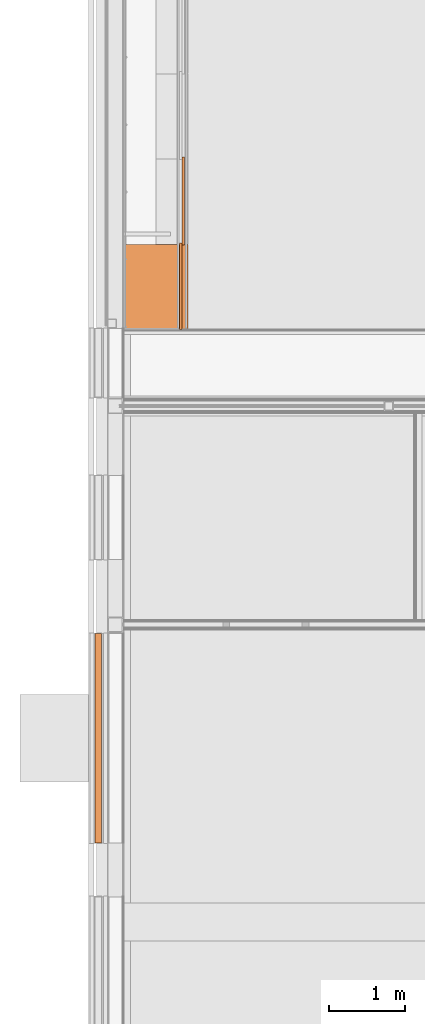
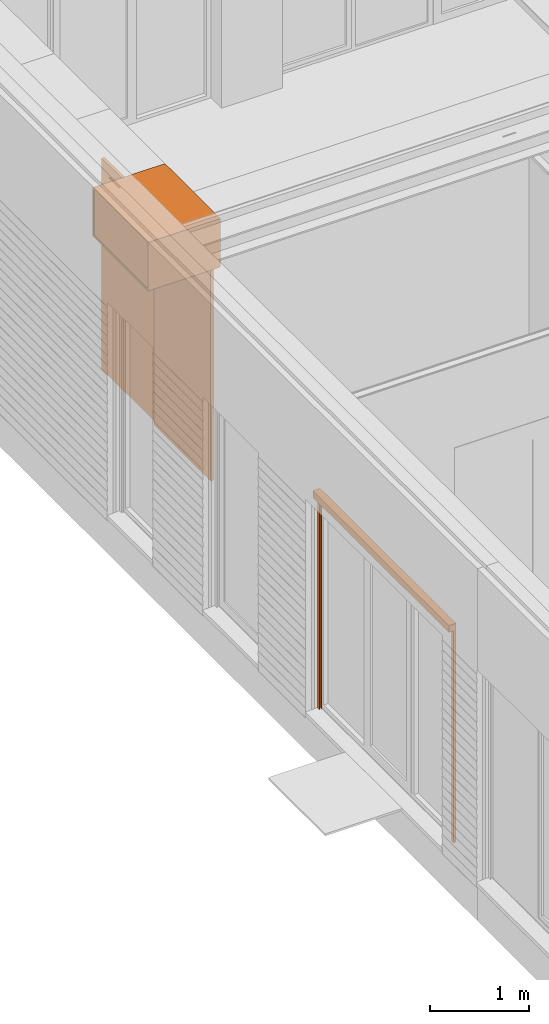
# One storey, part 134 of 165: 4 proxies.
"""IFC2X3 building model written with IfcOpenShell, lengths in millimetres."""

from ifc_helpers import new_model, entity, si_unit, converted_unit, derived_unit, money_unit, direction, frame, origin_with_axes, place, context, subcontext, project, spatial, open_shell, faceted_brep, surface_model, source, transform, mapped, type_object, type_shapes, element, save


model = new_model("IFC2X3")

# Units and contexts
model_context = context("Model", 3, precision=0.01, world=origin_with_axes(), true_north=direction((0.0, 1.0)))
body_context = subcontext(model_context, "Body", "Model", "MODEL_VIEW")
ifc_project = project(units=[si_unit("LENGTHUNIT", "METRE", prefix="MILLI"), si_unit("AREAUNIT", "SQUARE_METRE"), si_unit("VOLUMEUNIT", "CUBIC_METRE"), converted_unit("PLANEANGLEUNIT", "DEGREE", entity("IfcPlaneAngleMeasure", 0.0174532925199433), si_unit("PLANEANGLEUNIT", "RADIAN"), dimensions=[0, 0, 0, 0, 0, 0, 0]), money_unit("EUR"), converted_unit("TIMEUNIT", "Year", entity("IfcTimeMeasure", 31556926.0), si_unit("TIMEUNIT", "SECOND"), dimensions=[0, 0, 1, 0, 0, 0, 0]), si_unit("MASSUNIT", "GRAM", prefix="KILO"), si_unit("THERMODYNAMICTEMPERATUREUNIT", "DEGREE_CELSIUS"), si_unit("LUMINOUSINTENSITYUNIT", "LUMEN"), si_unit("ENERGYUNIT", "JOULE", prefix="MEGA"), derived_unit("THERMALCONDUCTANCEUNIT", [(si_unit("POWERUNIT", "WATT"), 1), (si_unit("LENGTHUNIT", "METRE"), -1), (si_unit("THERMODYNAMICTEMPERATUREUNIT", "KELVIN"), -1)]), derived_unit("SPECIFICHEATCAPACITYUNIT", [(si_unit("ENERGYUNIT", "JOULE"), 1), (si_unit("MASSUNIT", "GRAM", prefix="KILO"), -1), (si_unit("THERMODYNAMICTEMPERATUREUNIT", "KELVIN"), -1)]), derived_unit("MASSDENSITYUNIT", [(si_unit("MASSUNIT", "GRAM", prefix="KILO"), 1), (si_unit("VOLUMEUNIT", "CUBIC_METRE"), -1)])], contexts=[model_context])

# Site, building, storey
site_placement = place(None, origin_with_axes())
site = spatial("IfcSite", under=ifc_project, at=site_placement, Name="Site", CompositionType="ELEMENT")
building_placement = place(site_placement, origin_with_axes())
building = spatial("IfcBuilding", under=site, at=building_placement, Name="Naam gebouw", CompositionType="ELEMENT")
storey_placement = place(building_placement, origin_with_axes())
storey = spatial("IfcBuildingStorey", under=building, at=storey_placement, Name="Begane grond", CompositionType="ELEMENT", Elevation=0.0)

# Proxies
building_element_proxy_type_1 = type_object("IfcBuildingElementProxyType", Name="Screen 26 KM", PredefinedType="NOTDEFINED")
shared_shape_1 = source(origin_with_axes(), body_context, "Body", "SurfaceModel", [
    faceted_brep([(0.0, 0.0, 0.0), (0.0, -30.0, 0.0), (0.0, -30.0, 2615.0), (0.0, 0.0, 2615.0), (40.0, 0.0, 0.0), (40.0, -4.999999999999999, 0.0), (37.0, -4.999999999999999, 0.0), (37.0, -3.0, 0.0), (3.0, -3.0, 0.0), (3.0, -27.0, 0.0), (37.0, -27.0, 0.0), (37.0, -25.0, 0.0), (40.0, -25.0, 0.0), (40.0, -30.0, 0.0), (40.0, -30.0, 2615.0), (40.0, -25.0, 2615.0), (37.0, -25.0, 2615.0), (37.0, -27.0, 2615.0), (3.0, -27.0, 2615.0), (3.0, -3.0, 2615.0), (37.0, -3.0, 2615.0), (37.0, -4.999999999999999, 2615.0), (40.0, -4.999999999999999, 2615.0), (40.0, 0.0, 2615.0)], [[[0, 1, 2, 3]], [[0, 4, 5, 6, 7, 8, 9, 10, 11, 12, 13, 1]], [[1, 13, 14, 2]], [[3, 2, 14, 15, 16, 17, 18, 19, 20, 21, 22, 23]], [[4, 0, 3, 23]], [[5, 4, 23, 22]], [[6, 5, 22, 21]], [[7, 6, 21, 20]], [[8, 7, 20, 19]], [[9, 8, 19, 18]], [[10, 9, 18, 17]], [[11, 10, 17, 16]], [[12, 11, 16, 15]], [[13, 12, 15, 14]]]),
    faceted_brep([(2750.0, 0.0, 0.0), (2750.0, 0.0, 2615.0), (2750.0, -30.0, 2615.0), (2750.0, -30.0, 0.0), (2710.0, 0.0, 0.0), (2710.0, 0.0, 2615.0), (2710.0, -4.999999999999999, 2615.0), (2713.0, -4.999999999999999, 2615.0), (2713.0, -3.0, 2615.0), (2747.0, -3.0, 2615.0), (2747.0, -27.0, 2615.0), (2713.0, -27.0, 2615.0), (2713.0, -25.0, 2615.0), (2710.0, -25.0, 2615.0), (2710.0, -30.0, 2615.0), (2710.0, -30.0, 0.0), (2710.0, -25.0, 0.0), (2713.0, -25.0, 0.0), (2713.0, -27.0, 0.0), (2747.0, -27.0, 0.0), (2747.0, -3.0, 0.0), (2713.0, -3.0, 0.0), (2713.0, -4.999999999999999, 0.0), (2710.0, -4.999999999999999, 0.0)], [[[0, 1, 2, 3]], [[4, 5, 1, 0]], [[1, 5, 6, 7, 8, 9, 10, 11, 12, 13, 14, 2]], [[3, 2, 14, 15]], [[0, 3, 15, 16, 17, 18, 19, 20, 21, 22, 23, 4]], [[23, 6, 5, 4]], [[22, 7, 6, 23]], [[21, 8, 7, 22]], [[20, 9, 8, 21]], [[19, 10, 9, 20]], [[18, 11, 10, 19]], [[17, 12, 11, 18]], [[16, 13, 12, 17]], [[15, 14, 13, 16]]]),
    surface_model("IfcShellBasedSurfaceModel", [(0.0, 0.0, 2700.0), (0.0, 0.0, 2615.0), (0.0, -85.0, 2615.0), (0.0, -85.0, 2700.0)], [open_shell([[[0, 1, 2, 3]]])]),
    surface_model("IfcShellBasedSurfaceModel", [(0.01, 0.0, 2700.0), (0.009999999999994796, -85.0, 2700.0), (2749.99, -85.00000000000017, 2700.0), (2749.99, 0.0, 2700.0), (0.01000000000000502, 0.0, 2618.0), (0.01000000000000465, -6.0, 2618.0), (0.01000000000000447, -6.0, 2621.0), (0.01000000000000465, -3.0, 2621.0), (0.01, -3.0, 2697.0), (0.009999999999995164, -82.0, 2697.0), (0.01, -82.0, 2618.0), (0.01000000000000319, -30.0, 2618.0), (0.01000000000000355, -30.0, 2612.0), (0.01000000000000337, -33.0, 2612.0), (0.01000000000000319, -33.0, 2615.0), (0.01, -85.0, 2615.0), (2749.99, -85.00000000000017, 2615.0), (2749.99, -33.00000000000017, 2615.0), (2749.99, -33.00000000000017, 2612.0), (2749.99, -30.00000000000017, 2612.0), (2749.99, -30.00000000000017, 2618.0), (2749.99, -82.00000000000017, 2618.0), (2749.99, -82.00000000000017, 2697.0), (2749.99, -3.000000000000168, 2697.0), (2749.99, -3.000000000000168, 2621.0), (2749.99, -6.000000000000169, 2621.0), (2749.99, -6.000000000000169, 2618.0), (2749.99, 0.0, 2618.0)], [open_shell([[[0, 1, 2, 3]], [[0, 4, 5, 6, 7, 8, 9, 10, 11, 12, 13, 14, 15, 1]], [[1, 15, 16, 2]], [[3, 2, 16, 17, 18, 19, 20, 21, 22, 23, 24, 25, 26, 27]], [[4, 0, 3, 27]], [[13, 12, 19, 18]], [[14, 13, 18, 17]], [[15, 14, 17, 16]]])]),
    surface_model("IfcShellBasedSurfaceModel", [(2749.99, 0.0, 2700.0), (2749.99, 0.0, 2615.0), (2749.99, -85.00000000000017, 2615.0), (2749.99, -85.00000000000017, 2700.0)], [open_shell([[[0, 1, 2, 3]]])]),
])
type_shapes(building_element_proxy_type_1, [shared_shape_1])
proxy_1_placement = place(storey_placement, frame((-81.99999999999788, 19334.9998112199, -8.0), z_axis=(0.0, 0.0, 1.0), x_axis=(0.0, -1.0, 0.0)))
element("IfcBuildingElementProxy", 1, at=proxy_1_placement, inside=storey, type_object=building_element_proxy_type_1, Name="_Object-x", context=body_context, shape_type="MappedRepresentation", body=[
    mapped(shared_shape_1, transform((0.0, 0.0, 0.0))),
])
building_element_proxy_type_2 = type_object("IfcBuildingElementProxyType", Name="gevelbekleding", PredefinedType="NOTDEFINED")
shared_shape_2 = source(origin_with_axes(), body_context, "Body", "Brep", [
    faceted_brep([(577.5, 0.0, 0.0), (577.5, -35.0, 0.0), (572.5, -35.0, 0.0), (572.5, 0.0, 0.0), (577.5, 0.0, 2600.0), (577.5, -35.0, 2600.0), (572.5, -35.0, 2600.0), (572.5, 0.0, 2600.0)], [[[0, 1, 2, 3]], [[4, 5, 1, 0]], [[1, 5, 6, 2]], [[3, 2, 6, 7]], [[0, 3, 7, 4]], [[7, 6, 5, 4]]]),
    faceted_brep([(-577.5, 0.0, 0.0), (-577.5, -35.0, 0.0), (-577.5, -35.0, 2600.0), (-577.5, 0.0, 2600.0), (-572.5000000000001, 0.0, 0.0), (-572.5000000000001, -35.0, 0.0), (-572.5000000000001, -35.0, 2600.0), (-572.5000000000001, 0.0, 2600.0)], [[[0, 1, 2, 3]], [[4, 5, 1, 0]], [[1, 5, 6, 2]], [[3, 2, 6, 7]], [[0, 3, 7, 4]], [[7, 6, 5, 4]]]),
    faceted_brep([(577.5, 0.0, 0.0), (577.5, -35.0, 0.0), (-577.5, -35.0, 0.0), (-577.5, 0.0, 0.0), (577.5, 0.0, 2600.0), (577.5, -35.0, 2600.0), (-577.5, -35.0, 2600.0), (-577.5, 0.0, 2600.0)], [[[0, 1, 2, 3]], [[4, 5, 1, 0]], [[1, 5, 6, 2]], [[3, 2, 6, 7]], [[0, 3, 7, 4]], [[7, 6, 5, 4]]]),
])
proxy_2_placement = place(storey_placement, frame((1014.000000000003, 25592.99991880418, 0.0), z_axis=(0.0, 0.0, 1.0), x_axis=(0.0, -1.0, 0.0)))
element("IfcBuildingElementProxy", 2, at=proxy_2_placement, inside=storey, type_object=building_element_proxy_type_2, Name="_-", context=body_context, shape_type="MappedRepresentation", body=[
    mapped(shared_shape_2, transform((577.5000000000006, 0.0, 0.0))),
])
shared_shape_3 = source(origin_with_axes(), body_context, "Body", "Brep", [
    faceted_brep([(-570.0, 0.0, 0.0), (-565.0, 0.0, 0.0), (-565.0, -35.0, 0.0), (-570.0, -35.0, 0.0), (-570.0, 0.0, 2600.0), (-565.0, 0.0, 2600.0), (-565.0, -35.0, 2600.0), (-570.0, -35.0, 2600.0)], [[[0, 1, 2, 3]], [[0, 4, 5, 1]], [[1, 5, 6, 2]], [[3, 2, 6, 7]], [[4, 0, 3, 7]], [[5, 4, 7, 6]]]),
    faceted_brep([(570.0, 0.0, 0.0), (570.0, 0.0, 2600.0), (570.0, -35.0, 2600.0), (570.0, -35.0, 0.0), (565.0000000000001, 0.0, 0.0), (565.0000000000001, 0.0, 2600.0), (565.0000000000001, -35.0, 2600.0), (565.0000000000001, -35.0, 0.0)], [[[0, 1, 2, 3]], [[0, 4, 5, 1]], [[1, 5, 6, 2]], [[3, 2, 6, 7]], [[4, 0, 3, 7]], [[5, 4, 7, 6]]]),
    faceted_brep([(-570.0, 0.0, 0.0), (570.0, 0.0, 0.0), (570.0, -35.0, 0.0), (-570.0, -35.0, 0.0), (-570.0, 0.0, 2600.0), (570.0, 0.0, 2600.0), (570.0, -35.0, 2600.0), (-570.0, -35.0, 2600.0)], [[[0, 1, 2, 3]], [[0, 4, 5, 1]], [[1, 5, 6, 2]], [[3, 2, 6, 7]], [[4, 0, 3, 7]], [[5, 4, 7, 6]]]),
])
type_shapes(building_element_proxy_type_2, [shared_shape_2, shared_shape_3])
proxy_3_placement = place(storey_placement, frame((1014.000000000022, 24467.99984810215, 0.0), z_axis=(0.0, 0.0, 1.0), x_axis=(0.0, -1.0, 0.0)))
element("IfcBuildingElementProxy", 3, at=proxy_3_placement, inside=storey, type_object=building_element_proxy_type_2, Name="_-", context=body_context, shape_type="MappedRepresentation", body=[
    mapped(shared_shape_3, transform((570.0000000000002, -34.99999999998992, 0.0))),
])
building_element_proxy_type_3 = type_object("IfcBuildingElementProxyType", Name="Onderkast recht 26", PredefinedType="NOTDEFINED")
shared_shape_4 = source(origin_with_axes(), body_context, "Body", "Brep", [
    faceted_brep([(-1.0, -827.0, 1.0), (-1.0, -845.0, 1.000000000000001), (-1119.000141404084, -845.0, 1.000000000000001), (-1119.000141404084, -827.0, 1.0), (-1.0, -827.0, 599.0), (-1.0, -845.0, 599.0), (-1119.000141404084, -845.0, 599.0), (-1119.000141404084, -827.0, 599.0)], [[[0, 1, 2, 3]], [[4, 5, 1, 0]], [[1, 5, 6, 2]], [[3, 2, 6, 7]], [[0, 3, 7, 4]], [[7, 6, 5, 4]]]),
    faceted_brep([(-18.0, -827.0, 0.0), (-18.0, -827.0, 18.0), (-1102.000141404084, -827.0, 18.0), (-1102.000141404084, -827.0, 0.0), (-18.0, 0.0, 0.0), (-18.0, 0.0, 18.0), (-1102.000141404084, 0.0, 18.0), (-1102.000141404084, 0.0, 0.0)], [[[0, 1, 2, 3]], [[4, 5, 1, 0]], [[1, 5, 6, 2]], [[3, 2, 6, 7]], [[0, 3, 7, 4]], [[7, 6, 5, 4]]]),
    faceted_brep([(-18.0, -827.0, 582.0), (-18.0, -827.0, 600.0), (-1102.000141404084, -827.0, 600.0), (-1102.000141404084, -827.0, 582.0), (-18.0, 0.0, 582.0), (-18.0, 0.0, 600.0), (-1102.000141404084, 0.0, 600.0), (-1102.000141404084, 0.0, 582.0)], [[[0, 1, 2, 3]], [[4, 5, 1, 0]], [[1, 5, 6, 2]], [[3, 2, 6, 7]], [[0, 3, 7, 4]], [[7, 6, 5, 4]]]),
    faceted_brep([(0.0, 0.0, 0.0), (0.0, 0.0, 600.0), (0.0, -827.0, 600.0), (0.0, -827.0, 0.0), (-18.0, 0.0, 0.0), (-18.0, 0.0, 600.0), (-18.0, -827.0, 600.0), (-18.0, -827.0, 0.0)], [[[0, 1, 2, 3]], [[4, 5, 1, 0]], [[1, 5, 6, 2]], [[3, 2, 6, 7]], [[0, 3, 7, 4]], [[7, 6, 5, 4]]]),
    faceted_brep([(-1120.000141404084, -827.0, 0.0), (-1120.000141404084, -827.0, 600.0), (-1120.000141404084, 0.0, 600.0), (-1120.000141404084, 0.0, 0.0), (-1102.000141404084, -827.0, 0.0), (-1102.000141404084, -827.0, 600.0), (-1102.000141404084, 0.0, 600.0), (-1102.000141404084, 0.0, 0.0)], [[[0, 1, 2, 3]], [[4, 5, 1, 0]], [[1, 5, 6, 2]], [[3, 2, 6, 7]], [[0, 3, 7, 4]], [[7, 6, 5, 4]]]),
    faceted_brep([(-1102.000141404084, -9.0, 18.0), (-1102.000141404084, -9.0, 582.0), (-18.00000000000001, -9.0, 582.0), (-18.00000000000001, -9.0, 18.0), (-1102.000141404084, -18.0, 18.0), (-1102.000141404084, -18.0, 582.0), (-18.00000000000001, -18.0, 582.0), (-18.00000000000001, -18.0, 18.0)], [[[0, 1, 2, 3]], [[4, 5, 1, 0]], [[1, 5, 6, 2]], [[3, 2, 6, 7]], [[0, 3, 7, 4]], [[7, 6, 5, 4]]]),
])
type_shapes(building_element_proxy_type_3, [shared_shape_4])
proxy_4_placement = place(storey_placement, frame((214.0000000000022, 24447.99942285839, 2600.0), z_axis=(0.0, 0.0, 1.0), x_axis=(0.0, 1.0, 0.0)))
element("IfcBuildingElementProxy", 4, at=proxy_4_placement, inside=storey, type_object=building_element_proxy_type_3, Name="_Leeg", context=body_context, shape_type="MappedRepresentation", body=[
    mapped(shared_shape_4, transform((0.0, 0.0, 0.0))),
])

save(model, "model.ifc")
